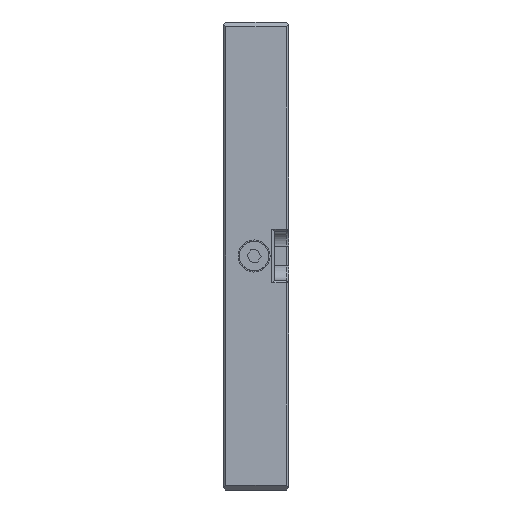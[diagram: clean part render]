
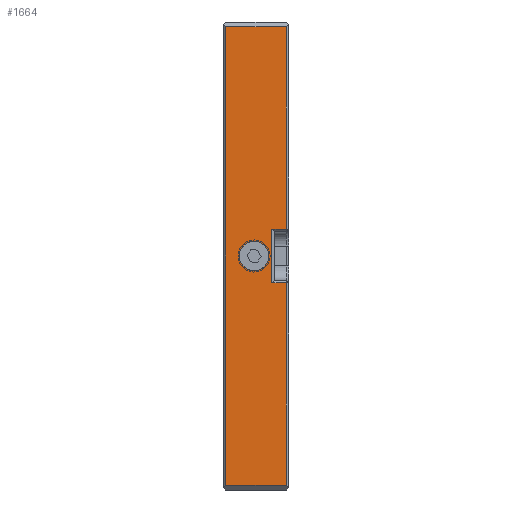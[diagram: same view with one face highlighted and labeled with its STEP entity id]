
A CAD part, left-side view. The second image highlights one B-rep face of the part: STEP entity #1664.
In plain terms, the highlighted planar face has unit normal (-1, 0, 0).
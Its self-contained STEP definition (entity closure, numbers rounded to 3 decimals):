
#6 = LINE ( 'NONE', #1800, #5083 ) ;
#185 = CARTESIAN_POINT ( 'NONE',  ( -96., 14.3, 6. ) ) ;
#260 = EDGE_CURVE ( 'NONE', #2077, #1700, #6286, .T. ) ;
#274 = EDGE_CURVE ( 'NONE', #1122, #5064, #2772, .T. ) ;
#277 = EDGE_LOOP ( 'NONE', ( #3666, #6766 ) ) ;
#360 = CARTESIAN_POINT ( 'NONE',  ( -96., 26., -94. ) ) ;
#426 = DIRECTION ( 'NONE',  ( 1., 0., 0. ) ) ;
#443 = VECTOR ( 'NONE', #1803, 1000. ) ;
#822 = VERTEX_POINT ( 'NONE', #2630 ) ;
#980 = CARTESIAN_POINT ( 'NONE',  ( -96., 1., -96. ) ) ;
#997 = DIRECTION ( 'NONE',  ( 1., 0., 0. ) ) ;
#1012 = AXIS2_PLACEMENT_3D ( 'NONE', #3618, #997, #5655 ) ;
#1114 = EDGE_CURVE ( 'NONE', #3821, #2077, #2207, .T. ) ;
#1122 = VERTEX_POINT ( 'NONE', #1940 ) ;
#1170 = DIRECTION ( 'NONE',  ( 0., -1., 0. ) ) ;
#1512 = EDGE_CURVE ( 'NONE', #5064, #5682, #4787, .T. ) ;
#1535 = DIRECTION ( 'NONE',  ( 0., 1., 0. ) ) ;
#1664 = ADVANCED_FACE ( 'NONE', ( #5509, #3749 ), #3679, .F. ) ;
#1700 = VERTEX_POINT ( 'NONE', #8197 ) ;
#1800 = CARTESIAN_POINT ( 'NONE',  ( -96., 27., -11. ) ) ;
#1803 = DIRECTION ( 'NONE',  ( 0., -1., 0. ) ) ;
#1940 = CARTESIAN_POINT ( 'NONE',  ( -96., 1., 11. ) ) ;
#2060 = ORIENTED_EDGE ( 'NONE', *, *, #5759, .T. ) ;
#2073 = ORIENTED_EDGE ( 'NONE', *, *, #3583, .T. ) ;
#2077 = VERTEX_POINT ( 'NONE', #6635 ) ;
#2093 = LINE ( 'NONE', #360, #5401 ) ;
#2119 = CARTESIAN_POINT ( 'NONE',  ( -96., 27., -94. ) ) ;
#2122 = CIRCLE ( 'NONE', #7371, 6. ) ;
#2172 = EDGE_CURVE ( 'NONE', #7710, #5085, #2190, .T. ) ;
#2190 = CIRCLE ( 'NONE', #2459, 6. ) ;
#2207 = LINE ( 'NONE', #2119, #4378 ) ;
#2274 = DIRECTION ( 'NONE',  ( 0., 0., 1. ) ) ;
#2307 = CARTESIAN_POINT ( 'NONE',  ( -96., 1., -96. ) ) ;
#2452 = CARTESIAN_POINT ( 'NONE',  ( -96., 27., 11. ) ) ;
#2459 = AXIS2_PLACEMENT_3D ( 'NONE', #4402, #426, #5063 ) ;
#2466 = CARTESIAN_POINT ( 'NONE',  ( -96., 14.3, 0. ) ) ;
#2530 = CARTESIAN_POINT ( 'NONE',  ( -96., 7., 10. ) ) ;
#2576 = ORIENTED_EDGE ( 'NONE', *, *, #4220, .T. ) ;
#2630 = CARTESIAN_POINT ( 'NONE',  ( -96., 7., -11. ) ) ;
#2660 = EDGE_CURVE ( 'NONE', #5682, #3821, #2093, .T. ) ;
#2772 = LINE ( 'NONE', #2307, #6086 ) ;
#3132 = DIRECTION ( 'NONE',  ( 0., 0., -1. ) ) ;
#3520 = EDGE_CURVE ( 'NONE', #5085, #7710, #2122, .T. ) ;
#3583 = EDGE_CURVE ( 'NONE', #822, #7487, #5221, .T. ) ;
#3618 = CARTESIAN_POINT ( 'NONE',  ( -96., 27., -96. ) ) ;
#3621 = DIRECTION ( 'NONE',  ( 0., 0., 1. ) ) ;
#3666 = ORIENTED_EDGE ( 'NONE', *, *, #2172, .T. ) ;
#3679 = PLANE ( 'NONE',  #1012 ) ;
#3681 = DIRECTION ( 'NONE',  ( 0., 0., -1. ) ) ;
#3749 = FACE_OUTER_BOUND ( 'NONE', #7185, .T. ) ;
#3821 = VERTEX_POINT ( 'NONE', #6810 ) ;
#3963 = LINE ( 'NONE', #2452, #443 ) ;
#4220 = EDGE_CURVE ( 'NONE', #7487, #1122, #3963, .T. ) ;
#4378 = VECTOR ( 'NONE', #1170, 1000. ) ;
#4402 = CARTESIAN_POINT ( 'NONE',  ( -96., 14.3, 0. ) ) ;
#4478 = ORIENTED_EDGE ( 'NONE', *, *, #274, .T. ) ;
#4787 = LINE ( 'NONE', #6108, #6334 ) ;
#5022 = VECTOR ( 'NONE', #5824, 1000. ) ;
#5063 = DIRECTION ( 'NONE',  ( 0., 0., -1. ) ) ;
#5064 = VERTEX_POINT ( 'NONE', #6083 ) ;
#5083 = VECTOR ( 'NONE', #7751, 1000. ) ;
#5085 = VERTEX_POINT ( 'NONE', #185 ) ;
#5221 = LINE ( 'NONE', #2530, #5022 ) ;
#5401 = VECTOR ( 'NONE', #3681, 1000. ) ;
#5509 = FACE_BOUND ( 'NONE', #277, .T. ) ;
#5655 = DIRECTION ( 'NONE',  ( 0., 0., -1. ) ) ;
#5682 = VERTEX_POINT ( 'NONE', #8320 ) ;
#5752 = CARTESIAN_POINT ( 'NONE',  ( -96., 14.3, -6. ) ) ;
#5759 = EDGE_CURVE ( 'NONE', #1700, #822, #6, .T. ) ;
#5824 = DIRECTION ( 'NONE',  ( 0., 0., 1. ) ) ;
#5976 = ORIENTED_EDGE ( 'NONE', *, *, #260, .T. ) ;
#6083 = CARTESIAN_POINT ( 'NONE',  ( -96., 1., 94. ) ) ;
#6086 = VECTOR ( 'NONE', #3621, 1000. ) ;
#6108 = CARTESIAN_POINT ( 'NONE',  ( -96., 27., 94. ) ) ;
#6286 = LINE ( 'NONE', #980, #8054 ) ;
#6334 = VECTOR ( 'NONE', #1535, 1000. ) ;
#6635 = CARTESIAN_POINT ( 'NONE',  ( -96., 1., -94. ) ) ;
#6679 = CARTESIAN_POINT ( 'NONE',  ( -96., 7., 11. ) ) ;
#6766 = ORIENTED_EDGE ( 'NONE', *, *, #3520, .T. ) ;
#6810 = CARTESIAN_POINT ( 'NONE',  ( -96., 26., -94. ) ) ;
#7090 = DIRECTION ( 'NONE',  ( 1., 0., 0. ) ) ;
#7185 = EDGE_LOOP ( 'NONE', ( #2576, #4478, #7430, #8412, #7779, #5976, #2060, #2073 ) ) ;
#7371 = AXIS2_PLACEMENT_3D ( 'NONE', #2466, #7090, #3132 ) ;
#7430 = ORIENTED_EDGE ( 'NONE', *, *, #1512, .T. ) ;
#7487 = VERTEX_POINT ( 'NONE', #6679 ) ;
#7710 = VERTEX_POINT ( 'NONE', #5752 ) ;
#7751 = DIRECTION ( 'NONE',  ( 0., 1., 0. ) ) ;
#7779 = ORIENTED_EDGE ( 'NONE', *, *, #1114, .T. ) ;
#8054 = VECTOR ( 'NONE', #2274, 1000. ) ;
#8197 = CARTESIAN_POINT ( 'NONE',  ( -96., 1., -11. ) ) ;
#8320 = CARTESIAN_POINT ( 'NONE',  ( -96., 26., 94. ) ) ;
#8412 = ORIENTED_EDGE ( 'NONE', *, *, #2660, .T. ) ;
